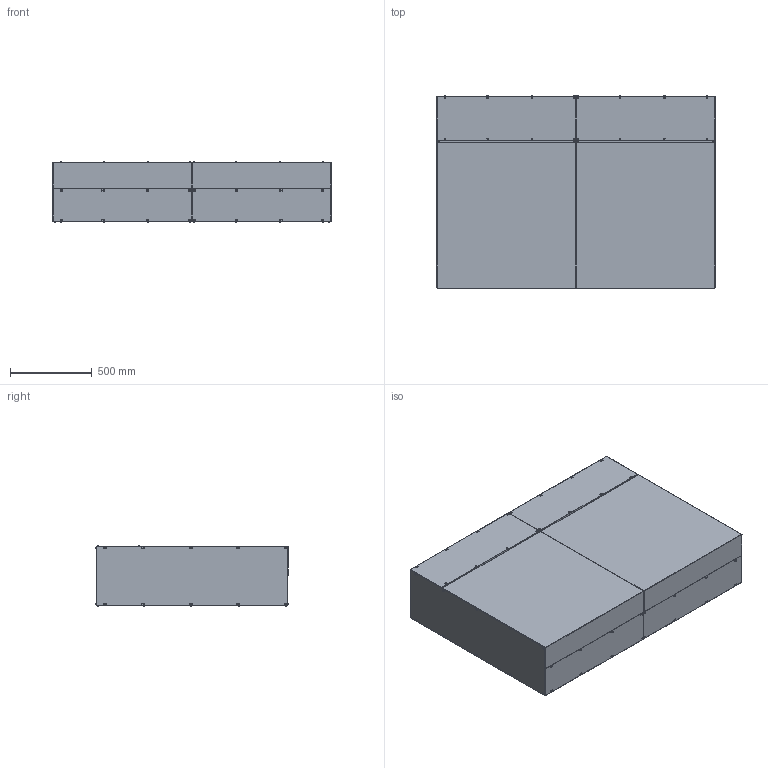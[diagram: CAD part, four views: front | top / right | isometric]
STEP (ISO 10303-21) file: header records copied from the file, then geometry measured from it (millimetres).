
FILE_DESCRIPTION(/* description */ (''),/* implementation_level */ '2;1');
FILE_NAME(/* name */ 'frame-panels',/* time_stamp */ '2013-11-26T23:54:58+01:00',/* author */ (''),/* organization */ (''),/* preprocessor_version */ 'ST-DEVELOPER v14',/* originating_system */ '',/* authorisation */ '');
FILE_SCHEMA (('AUTOMOTIVE_DESIGN'));
Products named in the file (3): Document; screw ISO7380-like, button, M5x06; nut tslot, post, M5
Assembly tree (98 placements, depth 2):
  Document
    screw ISO7380-like, button, M5x06  x55
    nut tslot, post, M5  x43
Bounding box: 1707.5 x 1177.5 x 367.5 mm (x, y, z)
Volume: 9547149.1 mm3; surface area: 12011855.2 mm2
Topology: 211 solids, 211 shells, 3902 faces, 9711 edges, 6134 vertices
Faces by surface type: plane 2638, bspline 1264
Entity records: 132799 total; most frequent: CARTESIAN_POINT 65494, B_SPLINE_CURVE_WITH_KNOTS 12046, ORIENTED_EDGE 9848, PCURVE 9848, DEFINITIONAL_REPRESENTATION 9848, SURFACE_CURVE 4924, EDGE_CURVE 4924, VERTEX_POINT 3180
